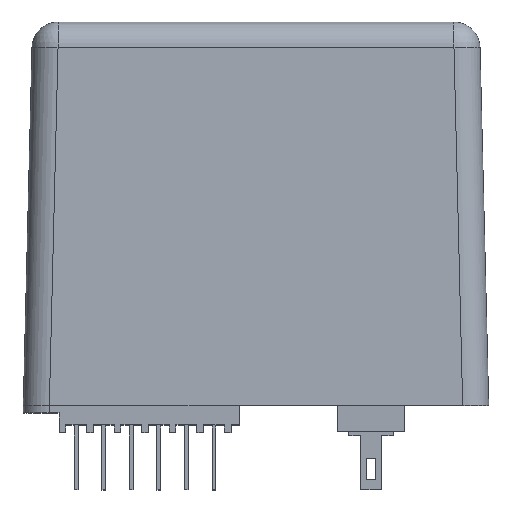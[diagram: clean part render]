
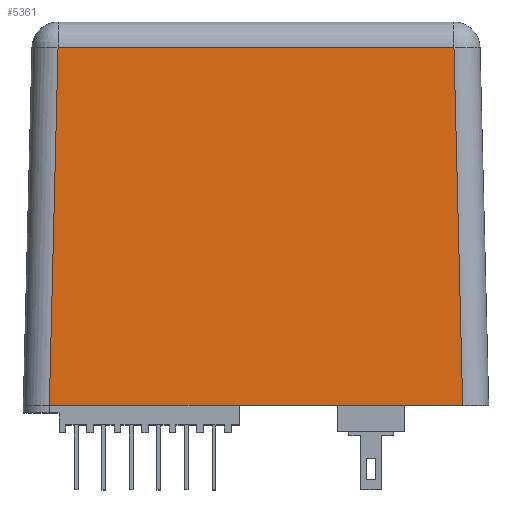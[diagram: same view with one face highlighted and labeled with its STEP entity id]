
A CAD part, top view. The second image highlights one B-rep face of the part: STEP entity #5361.
In plain terms, the highlighted planar face has unit normal (0, 0.022, 1).
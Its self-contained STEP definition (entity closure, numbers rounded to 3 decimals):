
#99 = EDGE_CURVE ( 'NONE', #1494, #1498, #2748, .T. ) ;
#695 = EDGE_LOOP ( 'NONE', ( #1028, #1030, #1029, #1032, #1031 ) ) ;
#1028 = ORIENTED_EDGE ( 'NONE', *, *, #6319, .T. ) ;
#1029 = ORIENTED_EDGE ( 'NONE', *, *, #6320, .T. ) ;
#1030 = ORIENTED_EDGE ( 'NONE', *, *, #99, .T. ) ;
#1031 = ORIENTED_EDGE ( 'NONE', *, *, #6322, .T. ) ;
#1032 = ORIENTED_EDGE ( 'NONE', *, *, #6321, .T. ) ;
#1494 = VERTEX_POINT ( 'NONE', #3920 ) ;
#1498 = VERTEX_POINT ( 'NONE', #3924 ) ;
#1704 = VECTOR ( 'NONE', #5092, 1000. ) ;
#1715 = VECTOR ( 'NONE', #5095, 1000. ) ;
#1779 = VECTOR ( 'NONE', #5086, 1000. ) ;
#1806 = VECTOR ( 'NONE', #5089, 1000. ) ;
#1865 = VERTEX_POINT ( 'NONE', #4107 ) ;
#1866 = VERTEX_POINT ( 'NONE', #4108 ) ;
#1867 = VERTEX_POINT ( 'NONE', #4109 ) ;
#2748 = LINE ( 'NONE', #2749, #5597 ) ;
#2749 = CARTESIAN_POINT ( 'NONE',  ( -31.25, 0., 16. ) ) ;
#2750 = DIRECTION ( 'NONE',  ( 1., 0., 0. ) ) ;
#3920 = CARTESIAN_POINT ( 'NONE',  ( -2.25, 0., 16. ) ) ;
#3924 = CARTESIAN_POINT ( 'NONE',  ( 27.751, 0., 16. ) ) ;
#4107 = CARTESIAN_POINT ( 'NONE',  ( -27.751, 0., 16. ) ) ;
#4108 = CARTESIAN_POINT ( 'NONE',  ( 26.584, 48.078, 14.926 ) ) ;
#4109 = CARTESIAN_POINT ( 'NONE',  ( -26.584, 48.078, 14.926 ) ) ;
#4594 = PLANE ( 'NONE',  #6177 ) ;
#4643 = CARTESIAN_POINT ( 'NONE',  ( 0., 0.357, 15.992 ) ) ;
#4644 = DIRECTION ( 'NONE',  ( 0., -0.022, -1. ) ) ;
#4645 = DIRECTION ( 'NONE',  ( 0., 1., -0.022 ) ) ;
#5084 = LINE ( 'NONE', #5085, #1779 ) ;
#5085 = CARTESIAN_POINT ( 'NONE',  ( -31.25, 0., 16. ) ) ;
#5086 = DIRECTION ( 'NONE',  ( 1., 0., 0. ) ) ;
#5087 = LINE ( 'NONE', #5088, #1806 ) ;
#5088 = CARTESIAN_POINT ( 'NONE',  ( 27.726, 1.03, 15.977 ) ) ;
#5089 = DIRECTION ( 'NONE',  ( -0.024, 0.999, -0.022 ) ) ;
#5090 = LINE ( 'NONE', #5091, #1704 ) ;
#5091 = CARTESIAN_POINT ( 'NONE',  ( 0., 48.078, 14.926 ) ) ;
#5092 = DIRECTION ( 'NONE',  ( -1., 0., 0. ) ) ;
#5093 = LINE ( 'NONE', #5094, #1715 ) ;
#5094 = CARTESIAN_POINT ( 'NONE',  ( -27.726, 1.03, 15.977 ) ) ;
#5095 = DIRECTION ( 'NONE',  ( -0.024, -0.999, 0.022 ) ) ;
#5361 = ADVANCED_FACE ( 'NONE', ( #6169 ), #4594, .F. ) ;
#5597 = VECTOR ( 'NONE', #2750, 1000. ) ;
#6169 = FACE_OUTER_BOUND ( 'NONE', #695, .T. ) ;
#6177 = AXIS2_PLACEMENT_3D ( 'NONE', #4643, #4644, #4645 ) ;
#6319 = EDGE_CURVE ( 'NONE', #1865, #1494, #5084, .T. ) ;
#6320 = EDGE_CURVE ( 'NONE', #1498, #1866, #5087, .T. ) ;
#6321 = EDGE_CURVE ( 'NONE', #1866, #1867, #5090, .T. ) ;
#6322 = EDGE_CURVE ( 'NONE', #1867, #1865, #5093, .T. ) ;
